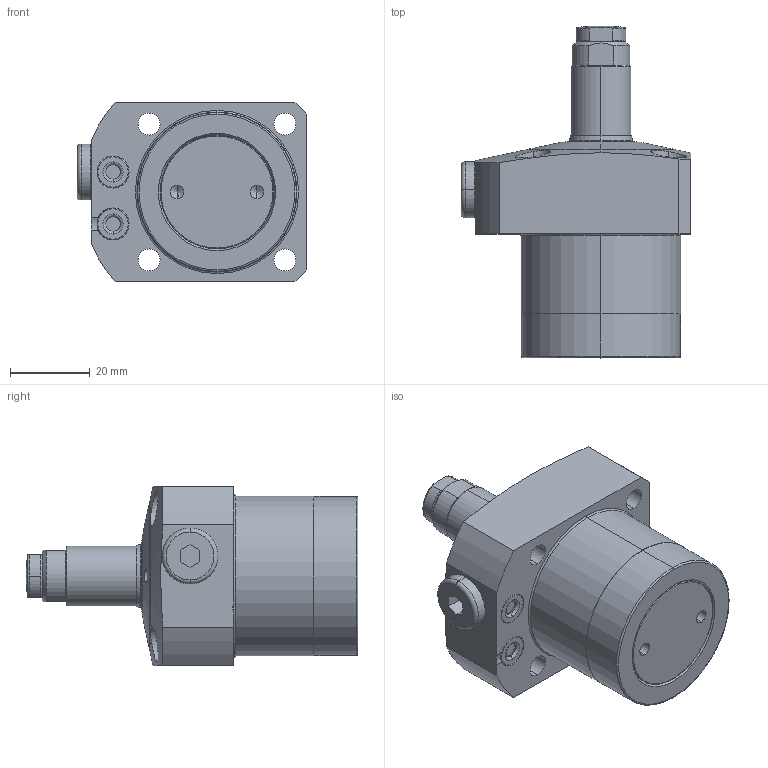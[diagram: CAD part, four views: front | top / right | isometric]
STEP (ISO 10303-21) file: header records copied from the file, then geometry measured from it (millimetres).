
FILE_DESCRIPTION(/* description */ (''),/* implementation_level */ '2;1');
FILE_NAME(/* name */ 'KFSS40-Q.stp',/* time_stamp */ '2026-02-06T10:47:32+08:00',/* author */ (''),/* organization */ (''),/* preprocessor_version */ 'ST-DEVELOPER v16.7',/* originating_system */ 'SIEMENS PLM Software NX 12.0',/* authorisation */ '');
FILE_SCHEMA (('AUTOMOTIVE_DESIGN { 1 0 10303 214 3 1 1 1 }'));
Length unit declared in the file: millimetre
Products named in the file (8): XLC-M10_Oring5075; XLC-M10_contactbolt293; KFSS40-Q-01; KFSS40-Q-03; KFSS40-Q-02; KFSS40-Q-05-P5; KFSS40-Q-04; LC0403-C-EQ_step
Assembly tree (8 placements, depth 3):
  LC0403-C-EQ_step
    KFSS40-Q-04
      XLC-M10_contactbolt293
      XLC-M10_Oring5075
    KFSS40-Q-05-P5  x2
    KFSS40-Q-02
    KFSS40-Q-03
    KFSS40-Q-01
Bounding box: 57.5 x 83 x 45 mm (x, y, z)
Volume: 87181.1 mm3; surface area: 18727 mm2
Topology: 7 solids, 7 shells, 236 faces, 518 edges, 312 vertices
Faces by surface type: cylinder 79, torus 60, plane 54, cone 41, sphere 2
Entity records: 6753 total; most frequent: CARTESIAN_POINT 1405, DIRECTION 1197, ORIENTED_EDGE 972, AXIS2_PLACEMENT_3D 518, EDGE_CURVE 486, VERTEX_POINT 298, CIRCLE 285, EDGE_LOOP 260
